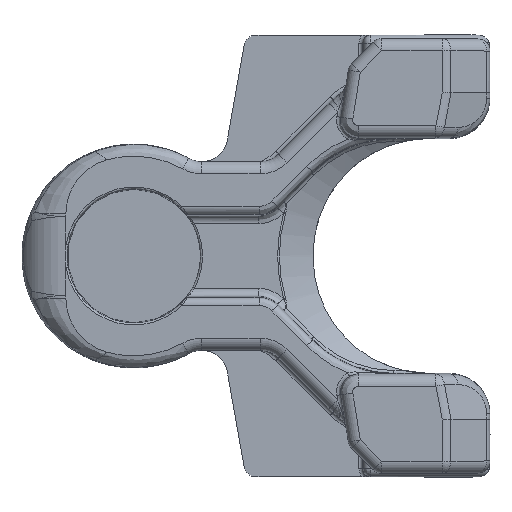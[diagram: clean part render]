
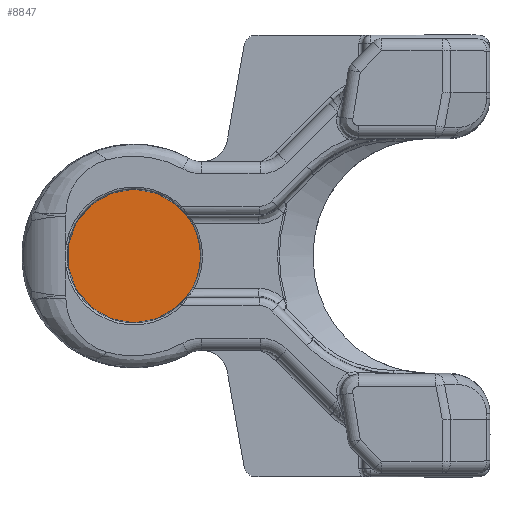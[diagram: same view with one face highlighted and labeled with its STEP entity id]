
A CAD part, front view. The second image highlights one B-rep face of the part: STEP entity #8847.
In plain terms, the highlighted planar face has unit normal (0, -1, 0).
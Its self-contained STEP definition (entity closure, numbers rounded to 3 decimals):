
#892=CARTESIAN_POINT('',(0.,11.537,0.));
#893=DIRECTION('',(0.,1.,0.));
#894=DIRECTION('',(0.,0.,-1.));
#895=AXIS2_PLACEMENT_3D('',#892,#893,#894);
#897=CARTESIAN_POINT('',(0.,11.537,0.));
#898=DIRECTION('',(0.,1.,0.));
#899=DIRECTION('',(0.,0.,1.));
#900=AXIS2_PLACEMENT_3D('',#897,#898,#899);
#6518=CARTESIAN_POINT('',(0.,11.537,-16.851));
#6519=VERTEX_POINT('',#6518);
#6520=CARTESIAN_POINT('',(0.,11.537,16.851));
#6521=VERTEX_POINT('',#6520);
#8838=CARTESIAN_POINT('',(0.,11.537,0.));
#8839=DIRECTION('',(0.,-1.,0.));
#8840=DIRECTION('',(0.,0.,1.));
#8841=AXIS2_PLACEMENT_3D('',#8838,#8839,#8840);
#8842=PLANE('',#8841);
#8843=ORIENTED_EDGE('',*,*,#8813,.T.);
#8844=ORIENTED_EDGE('',*,*,#8569,.T.);
#8845=EDGE_LOOP('',(#8843,#8844));
#8846=FACE_OUTER_BOUND('',#8845,.F.);
#896=CIRCLE('',#895,16.851);
#901=CIRCLE('',#900,16.851);
#8569=EDGE_CURVE('',#6521,#6519,#901,.T.);
#8813=EDGE_CURVE('',#6519,#6521,#896,.T.);
#8847=ADVANCED_FACE('',(#8846),#8842,.T.);
